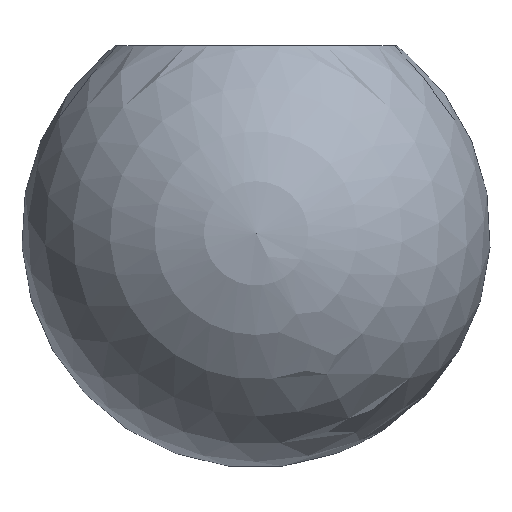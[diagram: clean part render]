
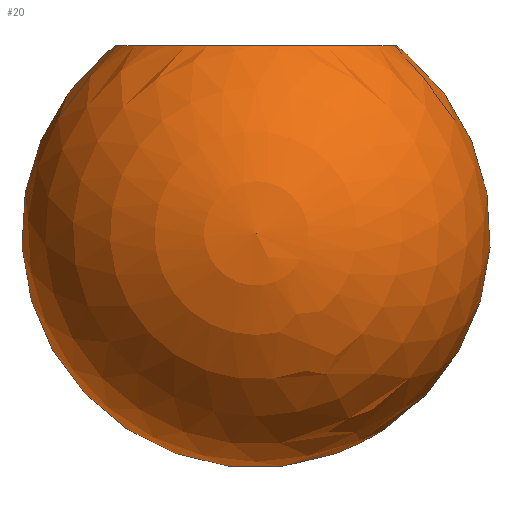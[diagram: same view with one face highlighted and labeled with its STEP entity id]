
A CAD part, left-side view. The second image highlights one B-rep face of the part: STEP entity #20.
In plain terms, the highlighted spherical face has radius 10 mm.
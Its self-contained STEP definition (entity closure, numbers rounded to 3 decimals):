
#20 = ADVANCED_FACE ( 'NONE', ( #129 ), #88, .T. ) ;
#51 = EDGE_CURVE ( 'NONE', #265, #265, #186, .T. ) ;
#70 = EDGE_LOOP ( 'NONE', ( #108 ) ) ;
#76 = CARTESIAN_POINT ( 'NONE',  ( 6., 0., 0. ) ) ;
#87 = DIRECTION ( 'NONE',  ( 0., 0., 1. ) ) ;
#88 = SPHERICAL_SURFACE ( 'NONE', #189, 10. ) ;
#106 = AXIS2_PLACEMENT_3D ( 'NONE', #279, #87, #177 ) ;
#108 = ORIENTED_EDGE ( 'NONE', *, *, #51, .F. ) ;
#129 = FACE_OUTER_BOUND ( 'NONE', #70, .T. ) ;
#130 = CARTESIAN_POINT ( 'NONE',  ( 0., 0., -8. ) ) ;
#135 = DIRECTION ( 'NONE',  ( 0., 1., 0. ) ) ;
#177 = DIRECTION ( 'NONE',  ( 1., 0., 0. ) ) ;
#186 = CIRCLE ( 'NONE', #106, 6. ) ;
#189 = AXIS2_PLACEMENT_3D ( 'NONE', #130, #252, #135 ) ;
#252 = DIRECTION ( 'NONE',  ( -1., 0., 0. ) ) ;
#265 = VERTEX_POINT ( 'NONE', #76 ) ;
#279 = CARTESIAN_POINT ( 'NONE',  ( 0., 0., 0. ) ) ;
